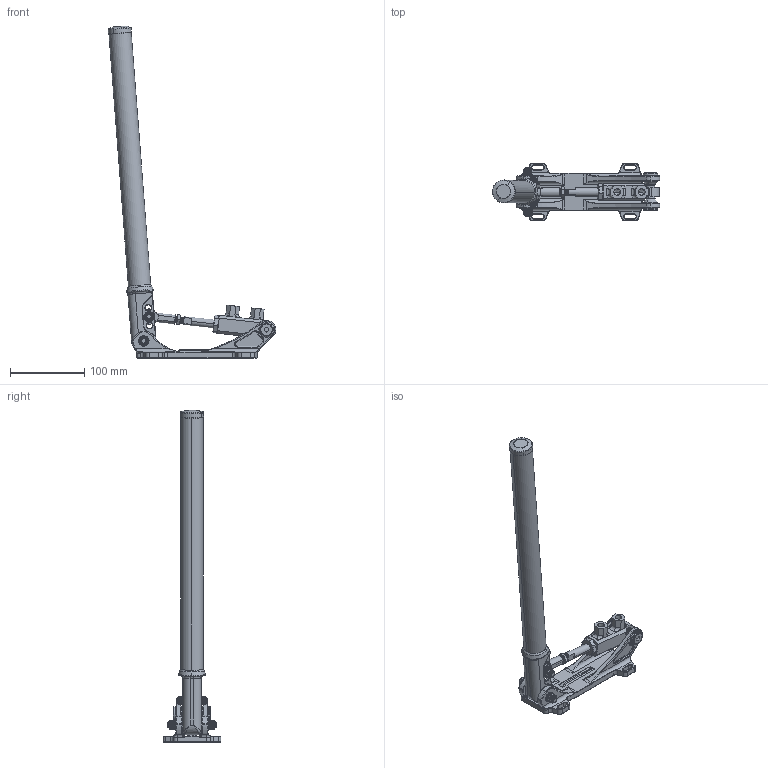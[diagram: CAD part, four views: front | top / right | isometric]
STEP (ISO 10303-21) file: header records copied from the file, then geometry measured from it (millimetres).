
FILE_DESCRIPTION (( 'STEP AP203' ), '1' );
FILE_NAME ('långa kolfiber.STEP', '2026-05-05T08:43:40', ( '' ), ( '' ), 'SwSTEP 2.0', 'SolidWorks 2026', '' );
FILE_SCHEMA (( 'CONFIG_CONTROL_DESIGN' ));
Length unit declared in the file: millimetre
Products named in the file (1): långa kolfiber
Bounding box: 225.35 x 78 x 446.65 mm (x, y, z)
Volume: 311150.1 mm3; surface area: 157392.8 mm2
Topology: 26 solids, 26 shells, 2378 faces, 5694 edges, 3183 vertices
Faces by surface type: cylinder 770, bspline 500, plane 483, cone 313, torus 233, sphere 79
Entity records: 104269 total; most frequent: CARTESIAN_POINT 54858, ORIENTED_EDGE 10940, DIRECTION 9438, EDGE_CURVE 5470, AXIS2_PLACEMENT_3D 3811, VERTEX_POINT 3173, EDGE_LOOP 2477, ADVANCED_FACE 2378
